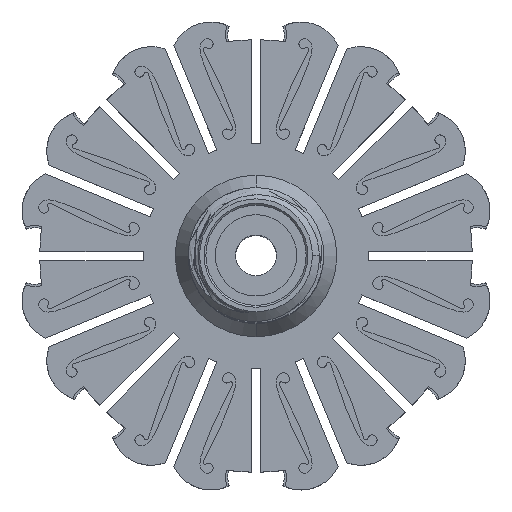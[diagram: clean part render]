
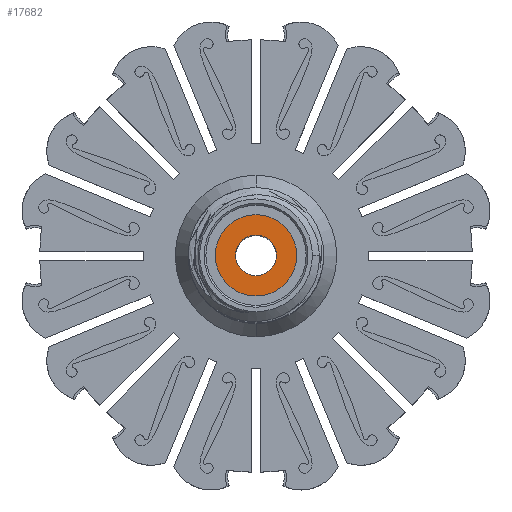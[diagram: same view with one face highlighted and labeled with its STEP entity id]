
A CAD part, top view. The second image highlights one B-rep face of the part: STEP entity #17682.
In plain terms, the highlighted planar face has unit normal (0, 0, 1) as drawn and (0, 1, 0) by its records, which use the part's own axes.
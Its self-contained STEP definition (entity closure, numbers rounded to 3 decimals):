
#3181 = EDGE_CURVE ( 'NONE', #46749, #50971, #33625, .T. ) ;
#6921 = EDGE_LOOP ( 'NONE', ( #9985, #52462 ) ) ;
#7233 = CARTESIAN_POINT ( 'NONE',  ( 0.1, 85.7, 0.1 ) ) ;
#9985 = ORIENTED_EDGE ( 'NONE', *, *, #48614, .T. ) ;
#11142 = FACE_OUTER_BOUND ( 'NONE', #39872, .T. ) ;
#12603 = DIRECTION ( 'NONE',  ( 0., 1., 0. ) ) ;
#12829 = DIRECTION ( 'NONE',  ( 0., 0., 1. ) ) ;
#16903 = DIRECTION ( 'NONE',  ( 0., 1., 0. ) ) ;
#17682 = ADVANCED_FACE ( 'NONE', ( #11142, #35854 ), #39457, .T. ) ;
#18737 = EDGE_CURVE ( 'NONE', #41095, #30263, #49342, .T. ) ;
#18962 = CIRCLE ( 'NONE', #63170, 4.5 ) ;
#21407 = CIRCLE ( 'NONE', #37658, 9. ) ;
#24002 = AXIS2_PLACEMENT_3D ( 'NONE', #7233, #62171, #40538 ) ;
#24230 = DIRECTION ( 'NONE',  ( 0., -1., 0. ) ) ;
#28530 = CARTESIAN_POINT ( 'NONE',  ( 0.1, 85.7, 0.1 ) ) ;
#30263 = VERTEX_POINT ( 'NONE', #59658 ) ;
#33625 = CIRCLE ( 'NONE', #24002, 9. ) ;
#35191 = CARTESIAN_POINT ( 'NONE',  ( 0.1, 85.7, -8.9 ) ) ;
#35438 = DIRECTION ( 'NONE',  ( 0., -1., 0. ) ) ;
#35854 = FACE_BOUND ( 'NONE', #6921, .T. ) ;
#37658 = AXIS2_PLACEMENT_3D ( 'NONE', #28530, #12603, #12829 ) ;
#39457 = PLANE ( 'NONE',  #42283 ) ;
#39872 = EDGE_LOOP ( 'NONE', ( #50233, #50213 ) ) ;
#40176 = DIRECTION ( 'NONE',  ( 0., 0., 1. ) ) ;
#40538 = DIRECTION ( 'NONE',  ( 0., 0., 1. ) ) ;
#41095 = VERTEX_POINT ( 'NONE', #43209 ) ;
#42283 = AXIS2_PLACEMENT_3D ( 'NONE', #61118, #16903, #66341 ) ;
#43209 = CARTESIAN_POINT ( 'NONE',  ( 0.1, 85.7, 4.6 ) ) ;
#46749 = VERTEX_POINT ( 'NONE', #59283 ) ;
#48614 = EDGE_CURVE ( 'NONE', #30263, #41095, #18962, .T. ) ;
#49342 = CIRCLE ( 'NONE', #55949, 4.5 ) ;
#50213 = ORIENTED_EDGE ( 'NONE', *, *, #63743, .T. ) ;
#50233 = ORIENTED_EDGE ( 'NONE', *, *, #3181, .T. ) ;
#50971 = VERTEX_POINT ( 'NONE', #35191 ) ;
#52462 = ORIENTED_EDGE ( 'NONE', *, *, #18737, .T. ) ;
#55949 = AXIS2_PLACEMENT_3D ( 'NONE', #62992, #35438, #67743 ) ;
#59283 = CARTESIAN_POINT ( 'NONE',  ( 0.1, 85.7, 9.1 ) ) ;
#59658 = CARTESIAN_POINT ( 'NONE',  ( 0.1, 85.7, -4.4 ) ) ;
#61118 = CARTESIAN_POINT ( 'NONE',  ( 0.1, 85.7, 0.1 ) ) ;
#61834 = CARTESIAN_POINT ( 'NONE',  ( 0.1, 85.7, 0.1 ) ) ;
#62171 = DIRECTION ( 'NONE',  ( 0., 1., 0. ) ) ;
#62992 = CARTESIAN_POINT ( 'NONE',  ( 0.1, 85.7, 0.1 ) ) ;
#63170 = AXIS2_PLACEMENT_3D ( 'NONE', #61834, #24230, #40176 ) ;
#63743 = EDGE_CURVE ( 'NONE', #50971, #46749, #21407, .T. ) ;
#66341 = DIRECTION ( 'NONE',  ( 0., 0., 1. ) ) ;
#67743 = DIRECTION ( 'NONE',  ( 0., 0., 1. ) ) ;
